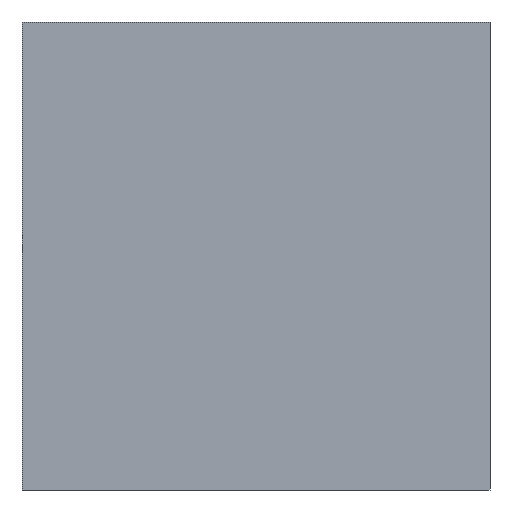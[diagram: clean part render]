
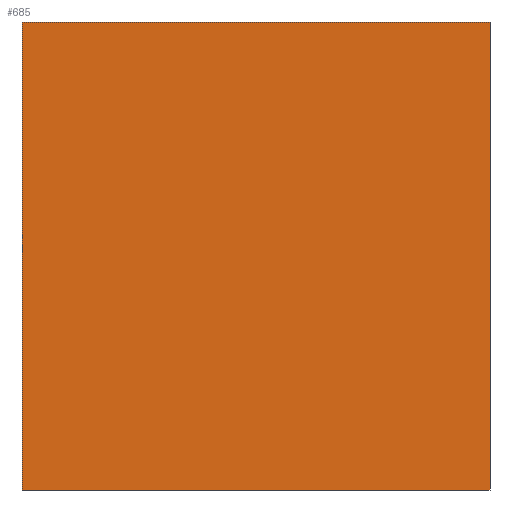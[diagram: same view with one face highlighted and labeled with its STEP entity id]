
A CAD part, front view. The second image highlights one B-rep face of the part: STEP entity #685.
In plain terms, the highlighted planar face has unit normal (0, -1, 0).
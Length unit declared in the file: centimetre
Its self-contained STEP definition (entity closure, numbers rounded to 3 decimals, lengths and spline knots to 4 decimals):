
#13 = CARTESIAN_POINT ( 'NONE',  ( 1000., 0., 1000. ) ) ;
#24 = CARTESIAN_POINT ( 'NONE',  ( 1000., 0., 0. ) ) ;
#60 = VERTEX_POINT ( 'NONE', #13 ) ;
#82 = CARTESIAN_POINT ( 'NONE',  ( 0., 0., 1000. ) ) ;
#123 = EDGE_CURVE ( 'NONE', #60, #422, #781, .T. ) ;
#127 = LINE ( 'NONE', #893, #669 ) ;
#145 = EDGE_CURVE ( 'NONE', #549, #693, #504, .T. ) ;
#171 = CARTESIAN_POINT ( 'NONE',  ( 0., 0., 0. ) ) ;
#182 = EDGE_CURVE ( 'NONE', #693, #422, #726, .T. ) ;
#260 = CARTESIAN_POINT ( 'NONE',  ( 0., 0., 1000. ) ) ;
#265 = VECTOR ( 'NONE', #643, 100. ) ;
#320 = DIRECTION ( 'NONE',  ( 0., 0., 1. ) ) ;
#326 = FACE_OUTER_BOUND ( 'NONE', #624, .T. ) ;
#353 = CARTESIAN_POINT ( 'NONE',  ( 1000., 0., 1000. ) ) ;
#422 = VERTEX_POINT ( 'NONE', #24 ) ;
#481 = VECTOR ( 'NONE', #805, 100. ) ;
#504 = LINE ( 'NONE', #82, #265 ) ;
#549 = VERTEX_POINT ( 'NONE', #741 ) ;
#609 = PLANE ( 'NONE',  #779 ) ;
#622 = ORIENTED_EDGE ( 'NONE', *, *, #629, .F. ) ;
#624 = EDGE_LOOP ( 'NONE', ( #653, #664, #622, #823 ) ) ;
#629 = EDGE_CURVE ( 'NONE', #549, #60, #127, .T. ) ;
#643 = DIRECTION ( 'NONE',  ( 0., 0., -1. ) ) ;
#647 = DIRECTION ( 'NONE',  ( 0., 0., -1. ) ) ;
#653 = ORIENTED_EDGE ( 'NONE', *, *, #182, .T. ) ;
#664 = ORIENTED_EDGE ( 'NONE', *, *, #123, .F. ) ;
#669 = VECTOR ( 'NONE', #745, 100. ) ;
#679 = CARTESIAN_POINT ( 'NONE',  ( 0., 0., 0. ) ) ;
#685 = ADVANCED_FACE ( 'NONE', ( #326 ), #609, .F. ) ;
#693 = VERTEX_POINT ( 'NONE', #679 ) ;
#726 = LINE ( 'NONE', #171, #481 ) ;
#741 = CARTESIAN_POINT ( 'NONE',  ( 0., 0., 1000. ) ) ;
#745 = DIRECTION ( 'NONE',  ( 1., 0., 0. ) ) ;
#779 = AXIS2_PLACEMENT_3D ( 'NONE', #260, #883, #320 ) ;
#781 = LINE ( 'NONE', #353, #844 ) ;
#805 = DIRECTION ( 'NONE',  ( 1., 0., 0. ) ) ;
#823 = ORIENTED_EDGE ( 'NONE', *, *, #145, .T. ) ;
#844 = VECTOR ( 'NONE', #647, 100. ) ;
#883 = DIRECTION ( 'NONE',  ( 0., 1., 0. ) ) ;
#893 = CARTESIAN_POINT ( 'NONE',  ( 0., 0., 1000. ) ) ;
